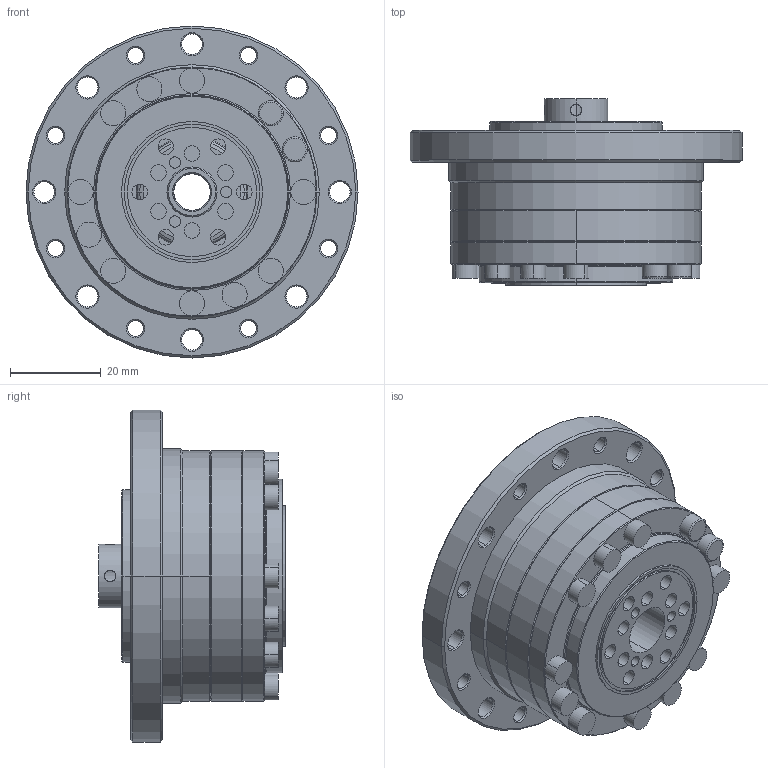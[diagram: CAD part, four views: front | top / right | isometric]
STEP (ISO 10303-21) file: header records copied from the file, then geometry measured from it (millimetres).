
FILE_DESCRIPTION((''),'2;1');
FILE_NAME('LSS-14_ASM','2017-09-16T',('Administrator'),(''),'PRO/ENGINEER BY PARAMETRIC TECHNOLOGY CORPORATION, 2014200','PRO/ENGINEER BY PARAMETRIC TECHNOLOGY CORPORATION, 2014200','');
FILE_SCHEMA(('AUTOMOTIVE_DESIGN { 1 0 10303 214 1 1 1 1 }'));
Length unit declared in the file: millimetre
Products named in the file (10): MANIFOLD_SOLID_BREP_190; MANIFOLD_SOLID_BREP_191; MANIFOLD_SOLID_BREP_192; MANIFOLD_SOLID_BREP_194; MANIFOLD_SOLID_BREP_196; MANIFOLD_SOLID_BREP_197; MANIFOLD_SOLID_BREP_198; MANIFOLD_SOLID_BREP_199; ADMI7ED1CHFF_ASM; LSS-14_ASM
Assembly tree (9 placements, depth 3):
  LSS-14_ASM
    ADMI7ED1CHFF_ASM
      MANIFOLD_SOLID_BREP_190
      MANIFOLD_SOLID_BREP_191
      MANIFOLD_SOLID_BREP_192
      MANIFOLD_SOLID_BREP_194
      MANIFOLD_SOLID_BREP_196
      MANIFOLD_SOLID_BREP_197
      MANIFOLD_SOLID_BREP_198
      MANIFOLD_SOLID_BREP_199
Bounding box: 73 x 41 x 73 mm (x, y, z)
Volume: 74728.1 mm3; surface area: 37447.7 mm2
Topology: 8 solids, 8 shells, 467 faces, 1239 edges, 819 vertices
Faces by surface type: cylinder 236, cone 148, plane 63, torus 16, revolution 4
Entity records: 19694 total; most frequent: DIRECTION 3004, CARTESIAN_POINT 2865, ORIENTED_EDGE 2446, AXIS2_PLACEMENT_3D 1307, PRESENTATION_STYLE_ASSIGNMENT 1231, STYLED_ITEM 1231, CURVE_STYLE 1223, EDGE_CURVE 1223
